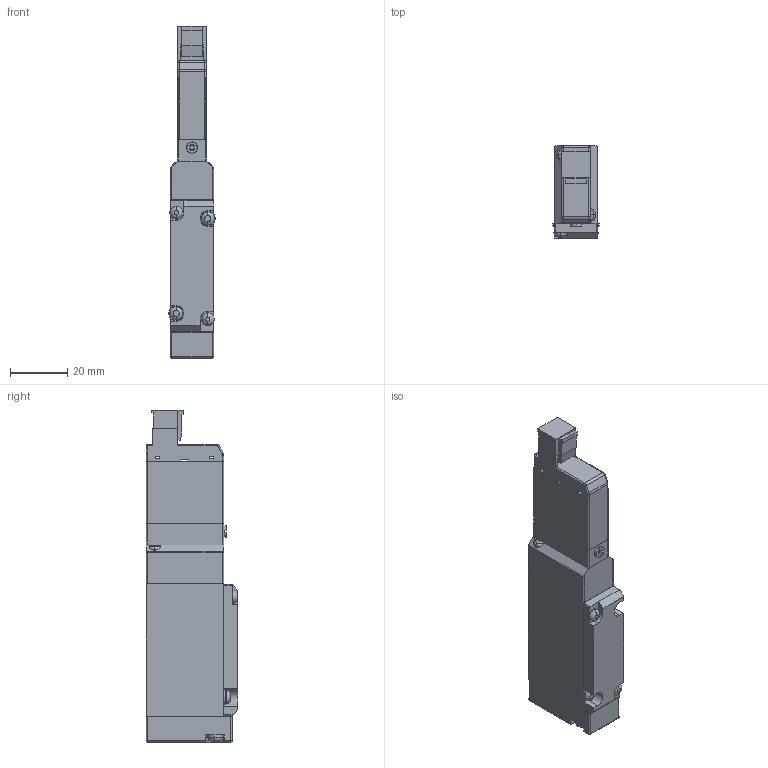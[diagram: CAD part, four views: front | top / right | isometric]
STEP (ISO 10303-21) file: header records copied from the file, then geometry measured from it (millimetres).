
FILE_DESCRIPTION( (''), '2;1');
FILE_NAME ('CVICAD02.3360.F15T0-A1-PS_21387.stp','2021-07-12T19:12:17',(''),(''),'spGate 12.6.6','','');
FILE_SCHEMA (('AUTOMOTIVE_DESIGN'));
Length unit declared in the file: millimetre
Products named in the file (7): Assembly; CVICAD02-prt0; CVICAD02-prt1; CVICAD02-prt2; CVICAD02-prt3; CVICAD02-prt4; CVICAD02-prt5
Assembly tree (6 placements, depth 2):
  Assembly
    CVICAD02-prt0
    CVICAD02-prt1
    CVICAD02-prt2
    CVICAD02-prt3
    CVICAD02-prt4
    CVICAD02-prt5
Bounding box: 16.2 x 32 x 115.5 mm (x, y, z)
Volume: 40724.9 mm3; surface area: 15743 mm2
Topology: 6 solids, 6 shells, 292 faces, 750 edges, 475 vertices
Faces by surface type: plane 157, cylinder 104, bspline 26, sphere 5
Entity records: 15278 total; most frequent: CARTESIAN_POINT 2238, ORIENTED_EDGE 1482, DIRECTION 1399, COLOUR_RGB 1039, PRESENTATION_STYLE_ASSIGNMENT 1039, STYLED_ITEM 1039, EDGE_CURVE 741, DRAUGHTING_PRE_DEFINED_CURVE_FONT 741
